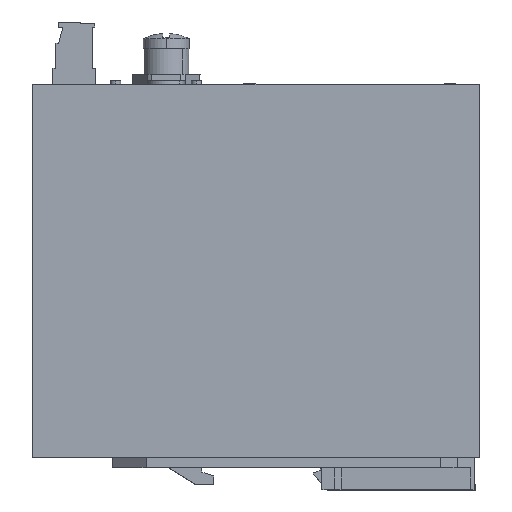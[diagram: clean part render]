
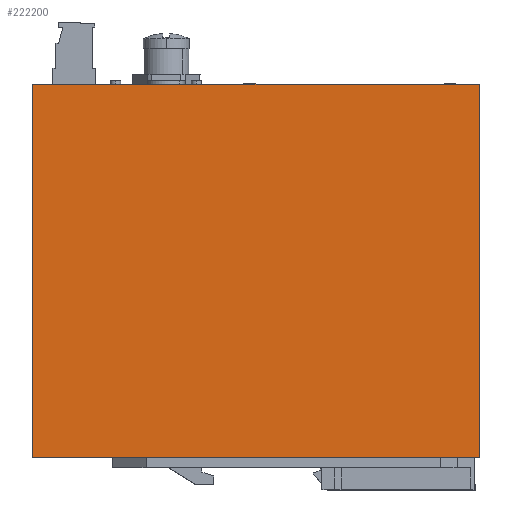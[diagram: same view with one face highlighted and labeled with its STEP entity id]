
A CAD part, top view. The second image highlights one B-rep face of the part: STEP entity #222200.
In plain terms, the highlighted planar face has unit normal (0, 0, 1) as drawn and (0, -1, 0) by its records, which use the part's own axes.
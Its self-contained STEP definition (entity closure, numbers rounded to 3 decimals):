
#36100=CARTESIAN_POINT('',(66.542,-11.788,
81.502));
#36110=VERTEX_POINT('',#36100);
#36280=CARTESIAN_POINT('',(66.542,-11.788,
-28.848));
#36290=VERTEX_POINT('',#36280);
#36320=CARTESIAN_POINT('',(66.542,-11.788,
25.352));
#36330=DIRECTION('',(0.,0.,1.));
#36340=VECTOR('',#36330,1.);
#36350=LINE('',#36320,#36340);
#36360=EDGE_CURVE('',#36290,#36110,#36350,.T.);
#72530=CARTESIAN_POINT('',(-65.458,-11.788,
25.352));
#72540=DIRECTION('',(0.,0.,-1.));
#72550=VECTOR('',#72540,1.);
#72560=LINE('',#72530,#72550);
#72570=CARTESIAN_POINT('',(-65.458,-11.788,
81.502));
#72580=VERTEX_POINT('',#72570);
#72590=CARTESIAN_POINT('',(-65.458,-11.788,
-28.848));
#72600=VERTEX_POINT('',#72590);
#72610=EDGE_CURVE('',#72580,#72600,#72560,.T.);
#221990=CARTESIAN_POINT('',(-65.458,-11.788,
122.778));
#222000=DIRECTION('',(0.,1.,0.));
#222010=DIRECTION('',(0.,0.,-1.));
#222020=AXIS2_PLACEMENT_3D('',#221990,#222000,#222010);
#222030=PLANE('',#222020);
#222040=ORIENTED_EDGE('',*,*,#36360,.T.);
#222050=CARTESIAN_POINT('',(66.542,-11.788,
-28.848));
#222060=DIRECTION('',(1.,0.,0.));
#222070=VECTOR('',#222060,1.);
#222080=LINE('',#222050,#222070);
#222090=EDGE_CURVE('',#72600,#36290,#222080,.T.);
#222100=ORIENTED_EDGE('',*,*,#222090,.T.);
#222110=ORIENTED_EDGE('',*,*,#72610,.T.);
#222120=CARTESIAN_POINT('',(66.542,-11.788,
81.502));
#222130=DIRECTION('',(1.,0.,0.));
#222140=VECTOR('',#222130,1.);
#222150=LINE('',#222120,#222140);
#222160=EDGE_CURVE('',#72580,#36110,#222150,.T.);
#222170=ORIENTED_EDGE('',*,*,#222160,.F.);
#222180=EDGE_LOOP('',(#222170,#222110,#222100,#222040));
#222190=FACE_OUTER_BOUND('',#222180,.T.);
#222200=ADVANCED_FACE('',(#222190),#222030,.F.);
